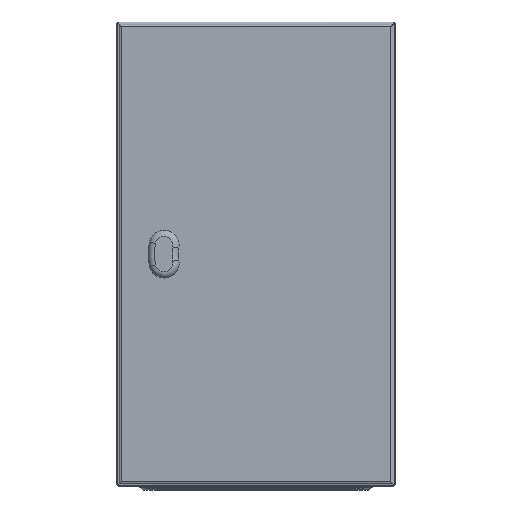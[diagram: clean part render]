
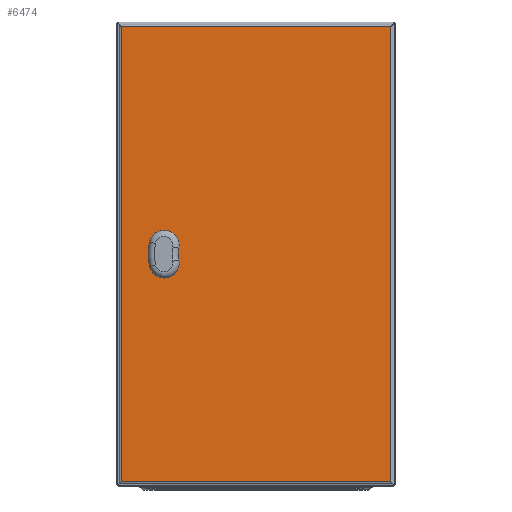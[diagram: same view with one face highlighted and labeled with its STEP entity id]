
A CAD part, front view. The second image highlights one B-rep face of the part: STEP entity #6474.
In plain terms, the highlighted planar face has unit normal (0, -1, 0).
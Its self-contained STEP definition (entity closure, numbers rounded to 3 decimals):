
#506=LINE('',#10541,#906);
#507=LINE('',#10544,#907);
#508=LINE('',#10546,#908);
#509=LINE('',#10548,#909);
#906=VECTOR('',#8452,1000.);
#907=VECTOR('',#8453,1000.);
#908=VECTOR('',#8454,1000.);
#909=VECTOR('',#8455,1000.);
#1728=ORIENTED_EDGE('',*,*,#3170,.F.);
#1729=ORIENTED_EDGE('',*,*,#3171,.T.);
#1730=ORIENTED_EDGE('',*,*,#3172,.T.);
#1731=ORIENTED_EDGE('',*,*,#3173,.T.);
#1732=ORIENTED_EDGE('',*,*,#3174,.F.);
#1733=ORIENTED_EDGE('',*,*,#3175,.F.);
#1734=ORIENTED_EDGE('',*,*,#3176,.T.);
#1735=ORIENTED_EDGE('',*,*,#3177,.T.);
#3170=EDGE_CURVE('',#3940,#3941,#4436,.T.);
#3171=EDGE_CURVE('',#3940,#3942,#4437,.T.);
#3172=EDGE_CURVE('',#3942,#3943,#4438,.T.);
#3173=EDGE_CURVE('',#3943,#3941,#4439,.T.);
#3174=EDGE_CURVE('',#3944,#3945,#506,.F.);
#3175=EDGE_CURVE('',#3946,#3944,#507,.T.);
#3176=EDGE_CURVE('',#3946,#3947,#508,.F.);
#3177=EDGE_CURVE('',#3947,#3945,#509,.T.);
#3940=VERTEX_POINT('',#10534);
#3941=VERTEX_POINT('',#10535);
#3942=VERTEX_POINT('',#10537);
#3943=VERTEX_POINT('',#10539);
#3944=VERTEX_POINT('',#10542);
#3945=VERTEX_POINT('',#10543);
#3946=VERTEX_POINT('',#10545);
#3947=VERTEX_POINT('',#10547);
#4436=CIRCLE('',#7098,34.3);
#4437=CIRCLE('',#7099,16.2);
#4438=CIRCLE('',#7100,60.7);
#4439=CIRCLE('',#7101,16.2);
#4956=EDGE_LOOP('',(#1728,#1729,#1730,#1731));
#4957=EDGE_LOOP('',(#1732,#1733,#1734,#1735));
#5680=FACE_BOUND('',#4956,.T.);
#5681=FACE_BOUND('',#4957,.T.);
#6236=PLANE('',#7097);
#6474=ADVANCED_FACE('',(#5680,#5681),#6236,.F.);
#7097=AXIS2_PLACEMENT_3D('',#10532,#8442,#8443);
#7098=AXIS2_PLACEMENT_3D('',#10533,#8444,#8445);
#7099=AXIS2_PLACEMENT_3D('',#10536,#8446,#8447);
#7100=AXIS2_PLACEMENT_3D('',#10538,#8448,#8449);
#7101=AXIS2_PLACEMENT_3D('',#10540,#8450,#8451);
#8442=DIRECTION('',(0.,1.,0.));
#8443=DIRECTION('',(0.,0.,1.));
#8444=DIRECTION('',(0.,1.,0.));
#8445=DIRECTION('',(1.,0.,0.));
#8446=DIRECTION('',(0.,1.,0.));
#8447=DIRECTION('',(1.,0.,0.));
#8448=DIRECTION('',(0.,1.,0.));
#8449=DIRECTION('',(1.,0.,0.));
#8450=DIRECTION('',(0.,1.,0.));
#8451=DIRECTION('',(1.,0.,0.));
#8452=DIRECTION('',(0.,0.,-1.));
#8453=DIRECTION('',(-1.,0.,0.));
#8454=DIRECTION('',(0.,0.,-1.));
#8455=DIRECTION('',(-1.,0.,0.));
#10532=CARTESIAN_POINT('',(0.,-16.5,0.));
#10533=CARTESIAN_POINT('',(-49.402,-16.5,0.));
#10534=CARTESIAN_POINT('',(-83.089,-16.5,-6.452));
#10535=CARTESIAN_POINT('',(-83.089,-16.5,6.452));
#10536=CARTESIAN_POINT('',(-99.,-16.5,-9.5));
#10537=CARTESIAN_POINT('',(-114.827,-16.5,-12.958));
#10538=CARTESIAN_POINT('',(-55.526,-16.5,0.));
#10539=CARTESIAN_POINT('',(-114.827,-16.5,12.958));
#10540=CARTESIAN_POINT('',(-99.,-16.5,9.5));
#10541=CARTESIAN_POINT('',(-145.,-16.5,250.));
#10542=CARTESIAN_POINT('',(-145.,-16.5,-245.));
#10543=CARTESIAN_POINT('',(-145.,-16.5,245.));
#10544=CARTESIAN_POINT('',(150.,-16.5,-245.));
#10545=CARTESIAN_POINT('',(145.,-16.5,-245.));
#10546=CARTESIAN_POINT('',(145.,-16.5,250.));
#10547=CARTESIAN_POINT('',(145.,-16.5,245.));
#10548=CARTESIAN_POINT('',(150.,-16.5,245.));
